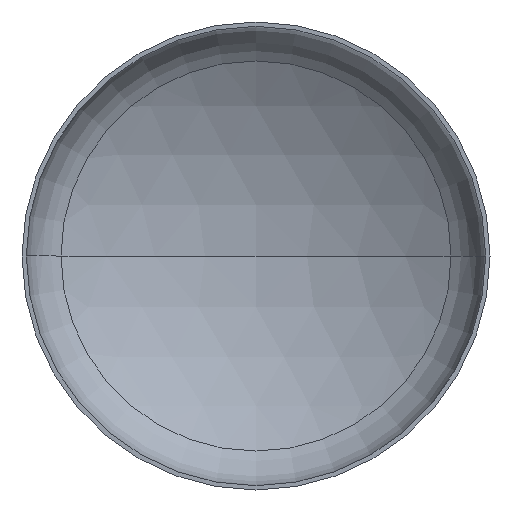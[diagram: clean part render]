
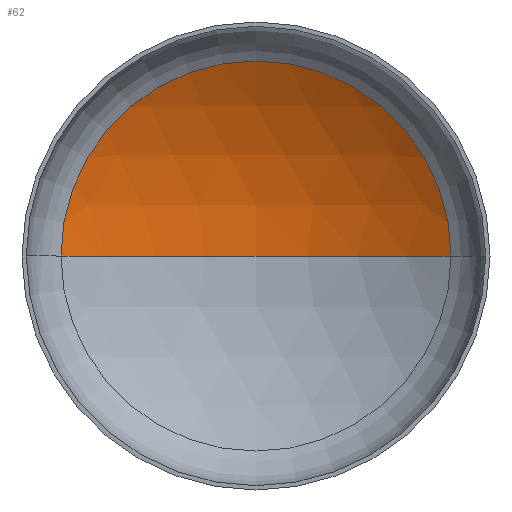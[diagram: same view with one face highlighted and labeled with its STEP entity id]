
A CAD part, front view. The second image highlights one B-rep face of the part: STEP entity #62.
In plain terms, the highlighted spherical face has radius 4800 mm.
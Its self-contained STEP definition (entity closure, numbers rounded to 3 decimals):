
#20 = DIRECTION ( 'NONE',  ( 0., 0., -1. ) ) ;
#56 = DIRECTION ( 'NONE',  ( 1., 0., 0. ) ) ;
#57 = AXIS2_PLACEMENT_3D ( 'NONE', #203, #20, #234 ) ;
#62 = ADVANCED_FACE ( 'NONE', ( #147 ), #245, .F. ) ;
#69 = AXIS2_PLACEMENT_3D ( 'NONE', #295, #97, #56 ) ;
#70 = AXIS2_PLACEMENT_3D ( 'NONE', #175, #156, #154 ) ;
#87 = CARTESIAN_POINT ( 'NONE',  ( 0., 1612.544, 0. ) ) ;
#97 = DIRECTION ( 'NONE',  ( 0., 0., 1. ) ) ;
#115 = AXIS2_PLACEMENT_3D ( 'NONE', #336, #219, #215 ) ;
#147 = FACE_OUTER_BOUND ( 'NONE', #284, .T. ) ;
#154 = DIRECTION ( 'NONE',  ( 1., 0., 0. ) ) ;
#156 = DIRECTION ( 'NONE',  ( 0., -1., 0. ) ) ;
#163 = EDGE_CURVE ( 'NONE', #355, #250, #292, .T. ) ;
#174 = EDGE_CURVE ( 'NONE', #371, #355, #362, .T. ) ;
#175 = CARTESIAN_POINT ( 'NONE',  ( 0., 909.522, 0. ) ) ;
#179 = EDGE_CURVE ( 'NONE', #371, #250, #217, .T. ) ;
#188 = ORIENTED_EDGE ( 'NONE', *, *, #174, .T. ) ;
#203 = CARTESIAN_POINT ( 'NONE',  ( 0., -3187.456, 0. ) ) ;
#215 = DIRECTION ( 'NONE',  ( -1., 0., 0. ) ) ;
#217 = CIRCLE ( 'NONE', #69, 4800. ) ;
#219 = DIRECTION ( 'NONE',  ( 0., 0., -1. ) ) ;
#228 = ORIENTED_EDGE ( 'NONE', *, *, #163, .T. ) ;
#234 = DIRECTION ( 'NONE',  ( -1., 0., 0. ) ) ;
#245 = SPHERICAL_SURFACE ( 'NONE', #115, 4800. ) ;
#250 = VERTEX_POINT ( 'NONE', #373 ) ;
#284 = EDGE_LOOP ( 'NONE', ( #293, #188, #228 ) ) ;
#292 = CIRCLE ( 'NONE', #70, 2500.955 ) ;
#293 = ORIENTED_EDGE ( 'NONE', *, *, #179, .F. ) ;
#295 = CARTESIAN_POINT ( 'NONE',  ( 0., -3187.456, 0. ) ) ;
#336 = CARTESIAN_POINT ( 'NONE',  ( 0., -3187.456, 0. ) ) ;
#355 = VERTEX_POINT ( 'NONE', #404 ) ;
#362 = CIRCLE ( 'NONE', #57, 4800. ) ;
#371 = VERTEX_POINT ( 'NONE', #87 ) ;
#373 = CARTESIAN_POINT ( 'NONE',  ( -2500.955, 909.522, 0. ) ) ;
#404 = CARTESIAN_POINT ( 'NONE',  ( 2500.955, 909.522, 0. ) ) ;
